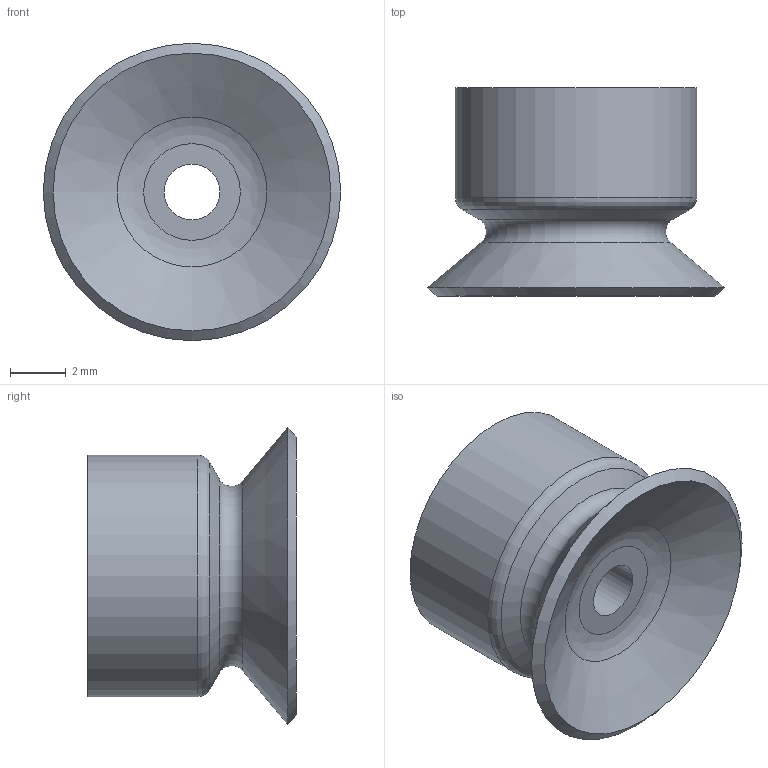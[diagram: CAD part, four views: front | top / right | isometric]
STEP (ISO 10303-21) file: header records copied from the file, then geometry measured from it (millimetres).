
FILE_DESCRIPTION(('STEP AP203'),'1');
FILE_NAME('_3D.stp','2024-06-11T23:43:22',(' '),(' '),'Spatial InterOp 3D',' ',' ');
FILE_SCHEMA(('CONFIG_CONTROL_DESIGN'));
Length unit declared in the file: millimetre
Products named in the file (1): 1
Bounding box: 10.72 x 7.5 x 10.72 mm (x, y, z)
Volume: 277.8 mm3; surface area: 482.9 mm2
Topology: 1 solids, 1 shells, 19 faces, 40 edges, 26 vertices
Faces by surface type: plane 5, torus 5, cone 4, cylinder 4, bspline 1
Full cylindrical faces by diameter (mm): 2 x1, 4 x1, 6 x1, 8.7 x1
Entity records: 455 total; most frequent: CARTESIAN_POINT 85, DIRECTION 76, AXIS2_PLACEMENT_3D 38, EDGE_LOOP 38, ORIENTED_EDGE 38, FACE_OUTER_BOUND 29, ADVANCED_FACE 19, EDGE_CURVE 19
